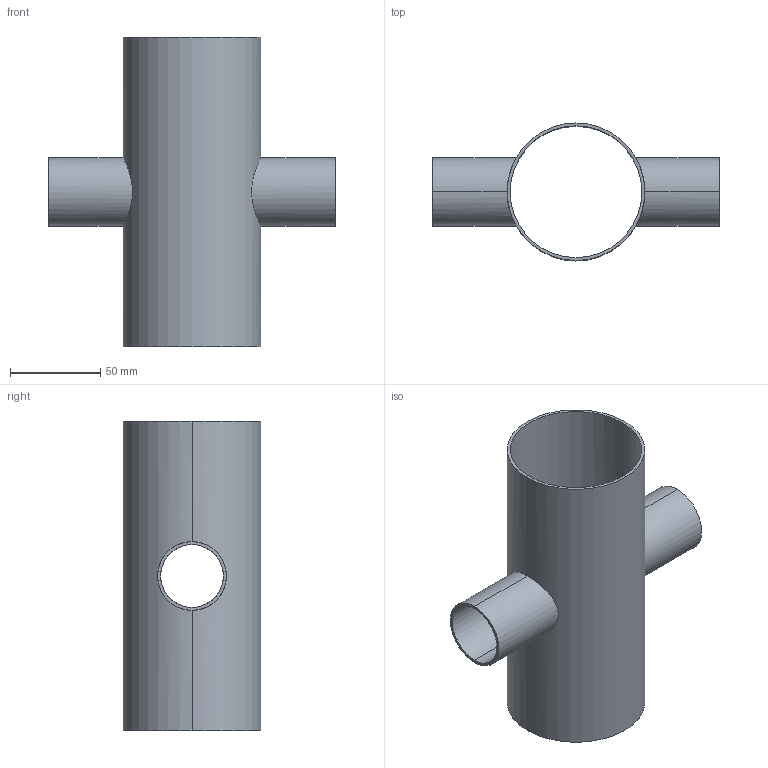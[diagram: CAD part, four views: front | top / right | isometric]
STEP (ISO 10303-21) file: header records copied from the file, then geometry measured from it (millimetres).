
FILE_DESCRIPTION (( 'STEP AP214' ), '1' );
FILE_NAME ('TE9RWWWW6L3.0x1.5-...STEP', '2016-05-22T04:36:18', ( 'eran' ), ( '' ), 'SwSTEP 2.0', 'SolidWorks 2016', '' );
FILE_SCHEMA (( 'AUTOMOTIVE_DESIGN' ));
Length unit declared in the file: millimetre
Products named in the file (1): TE9RWWWW6L3.0x1.5-..
Bounding box: 158.75 x 76.2 x 171.45 mm (x, y, z)
Volume: 79530.4 mm3; surface area: 97480.8 mm2
Topology: 1 solids, 1 shells, 16 faces, 40 edges, 24 vertices
Faces by surface type: cylinder 12, plane 4
Entity records: 954 total; most frequent: CARTESIAN_POINT 529, DIRECTION 82, ORIENTED_EDGE 80, EDGE_CURVE 40, AXIS2_PLACEMENT_3D 33, VERTEX_POINT 24, EDGE_LOOP 20, VECTOR 16
